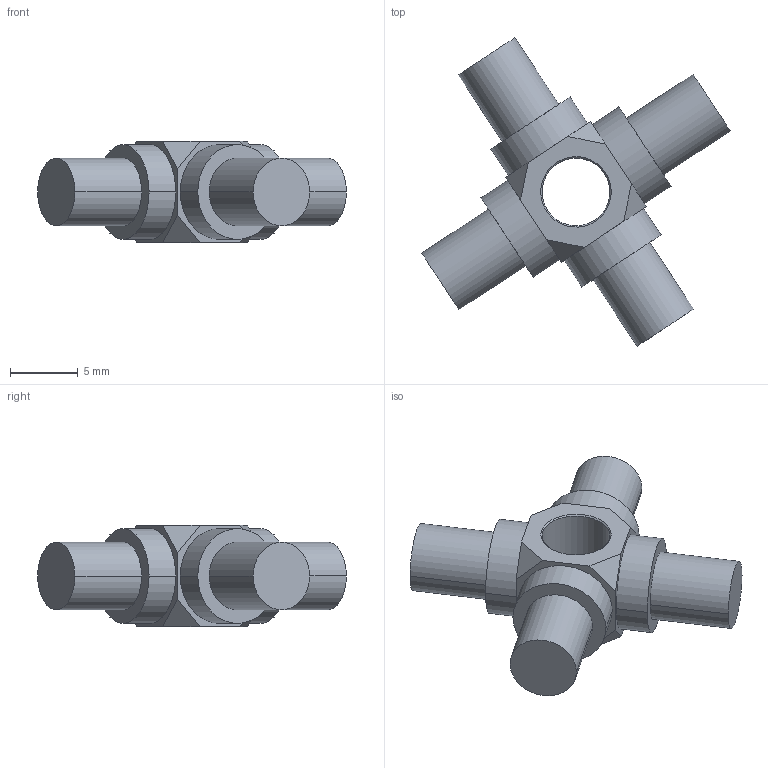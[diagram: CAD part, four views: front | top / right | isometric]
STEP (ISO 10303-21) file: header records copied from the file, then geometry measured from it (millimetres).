
FILE_DESCRIPTION (( 'STEP AP214' ), '1' );
FILE_NAME ('IRB360_X-1130-STD-4D_rev03_LC_CAD.STEP', '2023-12-04T07:56:27', ( '' ), ( '' ), 'SwSTEP 2.0', 'SolidWorks 2022', '' );
FILE_SCHEMA (( 'AUTOMOTIVE_DESIGN' ));
Length unit declared in the file: millimetre
Products named in the file (1): IRB360_X-1130-STD-4D_rev03_LC_CAD
Bounding box: 22.8 x 22.8 x 7.5 mm (x, y, z)
Volume: 1088.9 mm3; surface area: 971.4 mm2
Topology: 1 solids, 1 shells, 44 faces, 98 edges, 64 vertices
Faces by surface type: plane 22, cylinder 18, cone 4
Entity records: 1268 total; most frequent: DIRECTION 228, CARTESIAN_POINT 207, ORIENTED_EDGE 196, EDGE_CURVE 98, AXIS2_PLACEMENT_3D 85, VERTEX_POINT 64, LINE 58, VECTOR 58
